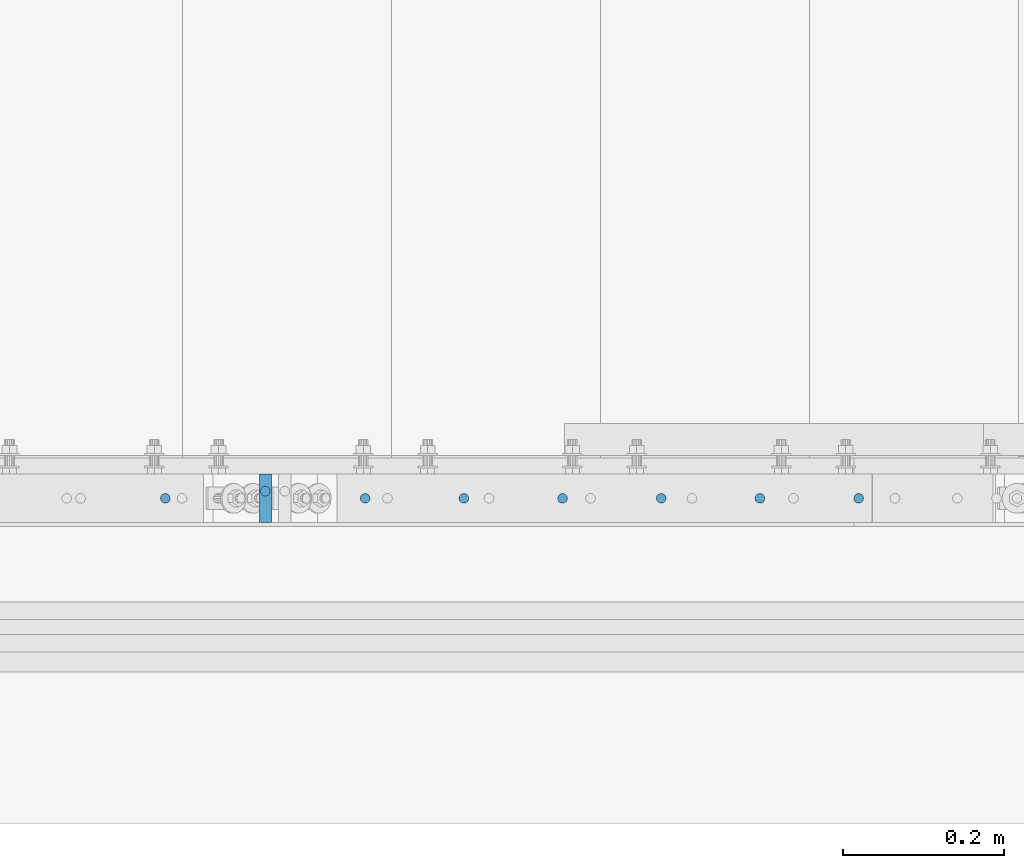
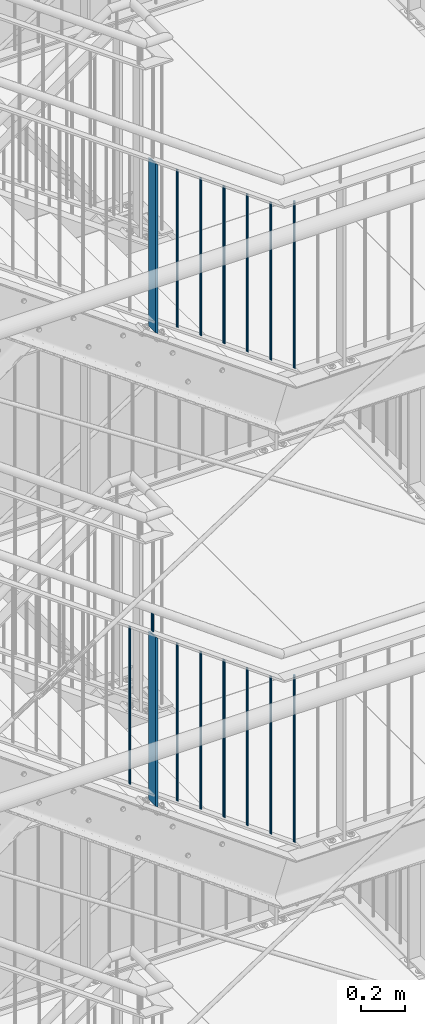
# One storey, part 40 of 825: 16 columns.
"""IFC2X3 building model written with IfcOpenShell, lengths in millimetres."""

from ifc_helpers import new_model, entity, si_unit, converted_unit, frame, origin, origin_with_axes, origin_2d, place, context, project, spatial, rectangle, circle, extrude, clip, halfspace, material, element, save


model = new_model("IFC2X3")

# Units and contexts
model_context = context("Model", 3, precision=1e-09, world=origin_with_axes())
ifc_project = project(units=[si_unit("LENGTHUNIT", "METRE", prefix="MILLI"), si_unit("AREAUNIT", "SQUARE_METRE"), si_unit("VOLUMEUNIT", "CUBIC_METRE"), converted_unit("PLANEANGLEUNIT", "DEGREE", entity("IfcPlaneAngleMeasure", 0.01745329), si_unit("PLANEANGLEUNIT", "RADIAN"), dimensions=[0, 0, 0, 0, 0, 0, 0])], contexts=[model_context])

# Site, building, storey
site_placement = place(None, origin_with_axes())
site = spatial("IfcSite", under=ifc_project, at=site_placement, Name="Cnopf'sche Kinderklinik", CompositionType="ELEMENT")
building_placement = place(site_placement, origin_with_axes())
building = spatial("IfcBuilding", under=site, at=building_placement, Name="Struktur 1", CompositionType="ELEMENT")
storey_placement = place(building_placement, origin_with_axes())
storey = spatial("IfcBuildingStorey", under=building, at=storey_placement, Name="Default Storey", CompositionType="ELEMENT", Elevation=0.0)

# Columns
ifc_material = material(Name="S235JR")
column_1_placement = place(None, frame((6379.791974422, 4526.736971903, 15426.182565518), z_axis=(0.0, 0.0, 1.0), x_axis=(-1.0, 0.0, 0.0)))
element("IfcColumn", 1, at=column_1_placement, inside=storey, material=ifc_material, Name="Railing_Post_Stair#10", ObjectType="Railing_Post_Stair#10", context=model_context, shape_type="Clipping", body=[
    clip(clip(extrude(rectangle(XDim=15.0, YDim=60.0, at=origin_2d()), origin(), (0.0, 0.0, -1.0), 1013.143391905), halfspace(frame((-3123.031519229, 4526.736971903, -2298.942520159), z_axis=(0.586383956, 0.0, -0.810033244), x_axis=(0.0, 1.0, 0.0)), True)), halfspace(frame((-2678.065052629, 4526.736971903, -2913.62105461), z_axis=(-0.586383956, 0.0, 0.810033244), x_axis=(0.0, -1.0, 0.0)), True)),
])
column_2_placement = place(None, frame((7117.792093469, 4526.736971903, 14905.3000001), z_axis=(0.0, 0.0, 1.0), x_axis=(-1.0, 0.0, 0.0)))
element("IfcColumn", 2, at=column_2_placement, inside=storey, material=ifc_material, Name="Railing_Picket_Stair#63", ObjectType="Railing_Picket_Stair#63", context=model_context, shape_type="Clipping", body=[
    clip(extrude(circle(Radius=6.0, at=origin_2d()), origin(), (0.0, 0.0, -1.0), 937.073950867), halfspace(frame((-1969.384131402, 4526.736971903, -2352.236827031), z_axis=(-0.586383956, 0.0, 0.810033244), x_axis=(0.0, -1.0, 0.0)), True)),
])
column_3_placement = place(None, frame((6995.04206966, 4526.736971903, 14953.10223446), z_axis=(0.0, 0.0, 1.0), x_axis=(-1.0, 0.0, 0.0)))
element("IfcColumn", 3, at=column_3_placement, inside=storey, material=ifc_material, Name="Railing_Picket_Stair#64", ObjectType="Railing_Picket_Stair#64", context=model_context, shape_type="Clipping", body=[
    clip(clip(extrude(circle(Radius=6.0, at=origin_2d()), origin(), (0.0, 0.0, -1.0), 896.017308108), halfspace(frame((-2507.78142399, 4526.736971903, -1825.862189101), z_axis=(0.586383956, 0.0, -0.810033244), x_axis=(0.0, 1.0, 0.0)), True)), halfspace(frame((-2092.134155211, 4526.736971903, -2400.03906139), z_axis=(-0.586383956, 0.0, 0.810033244), x_axis=(0.0, -1.0, 0.0)), True)),
])
column_4_placement = place(None, frame((6872.29204585, 4526.736971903, 15041.961111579), z_axis=(0.0, 0.0, 1.0), x_axis=(-1.0, 0.0, 0.0)))
element("IfcColumn", 4, at=column_4_placement, inside=storey, material=ifc_material, Name="Railing_Picket_Stair#65", ObjectType="Railing_Picket_Stair#65", context=model_context, shape_type="Clipping", body=[
    clip(clip(extrude(circle(Radius=6.0, at=origin_2d()), origin(), (0.0, 0.0, -1.0), 896.017308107), halfspace(frame((-2630.5314478, 4526.736971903, -1914.72106622), z_axis=(0.586383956, 0.0, -0.810033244), x_axis=(0.0, 1.0, 0.0)), True)), halfspace(frame((-2214.884179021, 4526.736971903, -2488.897938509), z_axis=(-0.586383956, 0.0, 0.810033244), x_axis=(0.0, -1.0, 0.0)), True)),
])
column_5_placement = place(None, frame((6749.542022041, 4526.736971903, 15130.819988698), z_axis=(0.0, 0.0, 1.0), x_axis=(-1.0, 0.0, 0.0)))
element("IfcColumn", 5, at=column_5_placement, inside=storey, material=ifc_material, Name="Railing_Picket_Stair#66", ObjectType="Railing_Picket_Stair#66", context=model_context, shape_type="Clipping", body=[
    clip(clip(extrude(circle(Radius=6.0, at=origin_2d()), origin(), (0.0, 0.0, -1.0), 896.017308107), halfspace(frame((-2753.28147161, 4526.736971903, -2003.579943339), z_axis=(0.586383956, 0.0, -0.810033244), x_axis=(0.0, 1.0, 0.0)), True)), halfspace(frame((-2337.634202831, 4526.736971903, -2577.756815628), z_axis=(-0.586383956, 0.0, 0.810033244), x_axis=(0.0, -1.0, 0.0)), True)),
])
column_6_placement = place(None, frame((6626.791998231, 4526.736971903, 15219.678865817), z_axis=(0.0, 0.0, 1.0), x_axis=(-1.0, 0.0, 0.0)))
element("IfcColumn", 6, at=column_6_placement, inside=storey, material=ifc_material, Name="Railing_Picket_Stair#67", ObjectType="Railing_Picket_Stair#67", context=model_context, shape_type="Clipping", body=[
    clip(clip(extrude(circle(Radius=6.0, at=origin_2d()), origin(), (0.0, 0.0, -1.0), 896.017308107), halfspace(frame((-2876.031495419, 4526.736971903, -2092.438820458), z_axis=(0.586383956, 0.0, -0.810033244), x_axis=(0.0, 1.0, 0.0)), True)), halfspace(frame((-2460.38422664, 4526.736971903, -2666.615692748), z_axis=(-0.586383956, 0.0, 0.810033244), x_axis=(0.0, -1.0, 0.0)), True)),
])
column_7_placement = place(None, frame((6504.041974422, 4526.736971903, 15308.537742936), z_axis=(0.0, 0.0, 1.0), x_axis=(-1.0, 0.0, 0.0)))
element("IfcColumn", 7, at=column_7_placement, inside=storey, material=ifc_material, Name="Railing_Picket_Stair#68", ObjectType="Railing_Picket_Stair#68", context=model_context, shape_type="Clipping", body=[
    clip(clip(extrude(circle(Radius=6.0, at=origin_2d()), origin(), (0.0, 0.0, -1.0), 896.017308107), halfspace(frame((-2998.781519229, 4526.736971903, -2181.297697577), z_axis=(0.586383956, 0.0, -0.810033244), x_axis=(0.0, 1.0, 0.0)), True)), halfspace(frame((-2583.13425045, 4526.736971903, -2755.474569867), z_axis=(-0.586383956, 0.0, 0.810033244), x_axis=(0.0, -1.0, 0.0)), True)),
])
column_8_placement = place(None, frame((6255.541974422, 4526.736971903, 15488.427165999), z_axis=(0.0, 0.0, 1.0), x_axis=(-1.0, 0.0, 0.0)))
element("IfcColumn", 8, at=column_8_placement, inside=storey, material=ifc_material, Name="Railing_Picket_Stair#69", ObjectType="Railing_Picket_Stair#69", context=model_context, shape_type="Clipping", body=[
    clip(clip(extrude(circle(Radius=6.0, at=origin_2d()), origin(), (0.0, 0.0, -1.0), 896.017308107), halfspace(frame((-3247.281519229, 4526.736971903, -2361.18712064), z_axis=(0.586383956, 0.0, -0.810033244), x_axis=(0.0, 1.0, 0.0)), True)), halfspace(frame((-2831.634250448, 4526.736971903, -2935.363992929), z_axis=(-0.586383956, 0.0, 0.810033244), x_axis=(0.0, -1.0, 0.0)), True)),
])
column_9_placement = place(None, frame((6379.791974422, 4535.536971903, 15510.827626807), z_axis=(0.0, 0.0, 1.0), x_axis=(0.0, 1.0, 0.0)))
element("IfcColumn", 9, at=column_9_placement, inside=storey, material=ifc_material, Name="Bar#10", ObjectType="Bar#10", context=model_context, shape_type="Clipping", body=[
    clip(clip(extrude(circle(Radius=6.0, at=origin_2d()), origin(), (0.0, 0.0, -1.0), 120.950452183), halfspace(frame((-4535.536971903, -3176.39440857, -2309.871863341), z_axis=(0.0, 0.586383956, -0.810033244), x_axis=(-1.0, 0.0, 0.0)), True)), halfspace(frame((-4535.536971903, -3128.896531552, -2375.48562894), z_axis=(0.0, -0.586383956, 0.810033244), x_axis=(1.0, 0.0, 0.0)), True)),
])
column_10_placement = place(None, frame((6379.791974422, 4526.736971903, 18050.893721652), z_axis=(0.0, 0.0, 1.0), x_axis=(-1.0, 0.0, 0.0)))
element("IfcColumn", 10, at=column_10_placement, inside=storey, material=ifc_material, Name="Railing_Post_Stair#10", ObjectType="Railing_Post_Stair#10", context=model_context, shape_type="Clipping", body=[
    clip(clip(extrude(rectangle(XDim=15.0, YDim=60.0, at=origin_2d()), origin(), (0.0, 0.0, -1.0), 1013.117713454), halfspace(frame((-4338.008375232, 4526.736971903, -3160.51460651), z_axis=(0.584187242, 0.0, -0.811618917), x_axis=(0.0, 1.0, 0.0)), True)), halfspace(frame((-3893.782513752, 4526.736971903, -3777.683360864), z_axis=(-0.584187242, 0.0, 0.811618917), x_axis=(0.0, -1.0, 0.0)), True)),
])
column_11_placement = place(None, frame((7117.792093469, 4526.736971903, 17532.8000003), z_axis=(0.0, 0.0, 1.0), x_axis=(-1.0, 0.0, 0.0)))
element("IfcColumn", 11, at=column_11_placement, inside=storey, material=ifc_material, Name="Railing_Picket_Stair#63", ObjectType="Railing_Picket_Stair#63", context=model_context, shape_type="Clipping", body=[
    clip(extrude(circle(Radius=6.0, at=origin_2d()), origin(), (0.0, 0.0, -1.0), 936.970620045), halfspace(frame((-3184.991756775, 4526.736971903, -3219.008693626), z_axis=(-0.584187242, 0.0, 0.811618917), x_axis=(0.0, -1.0, 0.0)), True)),
])
column_12_placement = place(None, frame((6995.04206966, 4526.736971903, 17580.402880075), z_axis=(0.0, 0.0, 1.0), x_axis=(-1.0, 0.0, 0.0)))
element("IfcColumn", 12, at=column_12_placement, inside=storey, material=ifc_material, Name="Railing_Picket_Stair#64", ObjectType="Railing_Picket_Stair#64", context=model_context, shape_type="Clipping", body=[
    clip(clip(extrude(circle(Radius=6.0, at=origin_2d()), origin(), (0.0, 0.0, -1.0), 896.220460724), halfspace(frame((-3722.758279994, 4526.736971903, -2690.023764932), z_axis=(0.584187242, 0.0, -0.811618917), x_axis=(0.0, 1.0, 0.0)), True)), halfspace(frame((-3307.741780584, 4526.736971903, -3266.611573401), z_axis=(-0.584187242, 0.0, 0.811618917), x_axis=(0.0, -1.0, 0.0)), True)),
])
column_13_placement = place(None, frame((6872.29204585, 4526.736971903, 17668.75591917), z_axis=(0.0, 0.0, 1.0), x_axis=(-1.0, 0.0, 0.0)))
element("IfcColumn", 13, at=column_13_placement, inside=storey, material=ifc_material, Name="Railing_Picket_Stair#65", ObjectType="Railing_Picket_Stair#65", context=model_context, shape_type="Clipping", body=[
    clip(clip(extrude(circle(Radius=6.0, at=origin_2d()), origin(), (0.0, 0.0, -1.0), 896.220460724), halfspace(frame((-3845.508303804, 4526.736971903, -2778.376804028), z_axis=(0.584187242, 0.0, -0.811618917), x_axis=(0.0, 1.0, 0.0)), True)), halfspace(frame((-3430.491804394, 4526.736971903, -3354.964612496), z_axis=(-0.584187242, 0.0, 0.811618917), x_axis=(0.0, -1.0, 0.0)), True)),
])
column_14_placement = place(None, frame((6749.542022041, 4526.736971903, 17757.108958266), z_axis=(0.0, 0.0, 1.0), x_axis=(-1.0, 0.0, 0.0)))
element("IfcColumn", 14, at=column_14_placement, inside=storey, material=ifc_material, Name="Railing_Picket_Stair#66", ObjectType="Railing_Picket_Stair#66", context=model_context, shape_type="Clipping", body=[
    clip(clip(extrude(circle(Radius=6.0, at=origin_2d()), origin(), (0.0, 0.0, -1.0), 896.220460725), halfspace(frame((-3968.258327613, 4526.736971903, -2866.729843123), z_axis=(0.584187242, 0.0, -0.811618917), x_axis=(0.0, 1.0, 0.0)), True)), halfspace(frame((-3553.241828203, 4526.736971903, -3443.317651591), z_axis=(-0.584187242, 0.0, 0.811618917), x_axis=(0.0, -1.0, 0.0)), True)),
])
column_15_placement = place(None, frame((6626.791998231, 4526.736971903, 17845.461997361), z_axis=(0.0, 0.0, 1.0), x_axis=(-1.0, 0.0, 0.0)))
element("IfcColumn", 15, at=column_15_placement, inside=storey, material=ifc_material, Name="Railing_Picket_Stair#67", ObjectType="Railing_Picket_Stair#67", context=model_context, shape_type="Clipping", body=[
    clip(clip(extrude(circle(Radius=6.0, at=origin_2d()), origin(), (0.0, 0.0, -1.0), 896.220460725), halfspace(frame((-4091.008351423, 4526.736971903, -2955.082882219), z_axis=(0.584187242, 0.0, -0.811618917), x_axis=(0.0, 1.0, 0.0)), True)), halfspace(frame((-3675.991852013, 4526.736971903, -3531.670690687), z_axis=(-0.584187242, 0.0, 0.811618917), x_axis=(0.0, -1.0, 0.0)), True)),
])
column_16_placement = place(None, frame((6504.041974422, 4526.736971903, 17933.815036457), z_axis=(0.0, 0.0, 1.0), x_axis=(-1.0, 0.0, 0.0)))
element("IfcColumn", 16, at=column_16_placement, inside=storey, material=ifc_material, Name="Railing_Picket_Stair#68", ObjectType="Railing_Picket_Stair#68", context=model_context, shape_type="Clipping", body=[
    clip(clip(extrude(circle(Radius=6.0, at=origin_2d()), origin(), (0.0, 0.0, -1.0), 896.220460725), halfspace(frame((-4213.758375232, 4526.736971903, -3043.435921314), z_axis=(0.584187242, 0.0, -0.811618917), x_axis=(0.0, 1.0, 0.0)), True)), halfspace(frame((-3798.741875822, 4526.736971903, -3620.023729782), z_axis=(-0.584187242, 0.0, 0.811618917), x_axis=(0.0, -1.0, 0.0)), True)),
])

save(model, "model.ifc")
